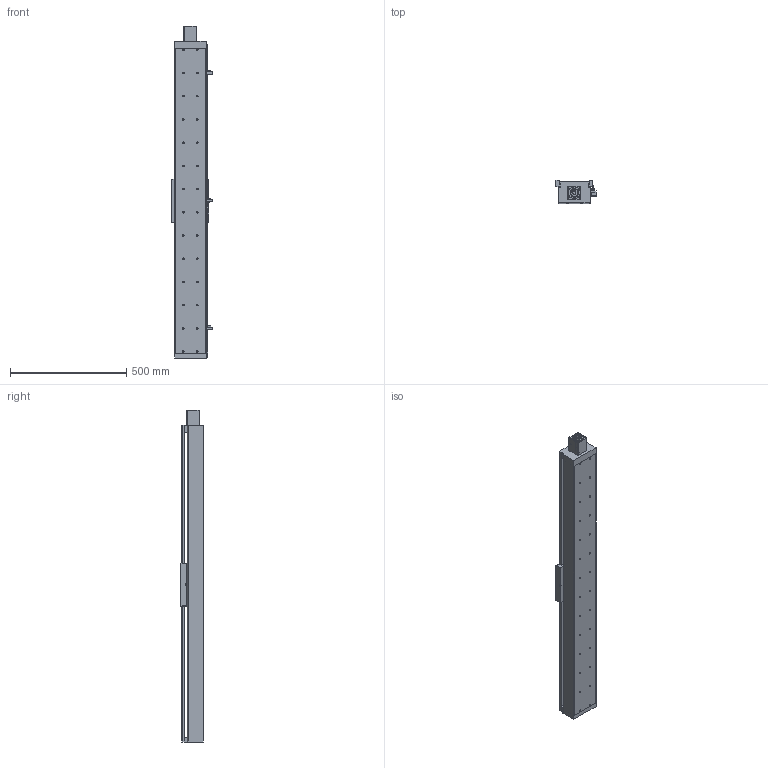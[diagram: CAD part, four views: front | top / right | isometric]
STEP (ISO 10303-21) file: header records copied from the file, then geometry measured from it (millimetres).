
FILE_DESCRIPTION((''),'2;1');
FILE_NAME('E:\libraries\UIA actuator library 2009\standard actuator\UIA136 ball screw 25\UIA136R15NDC-_ _ _-R25_ _, stp file 27Apr16\UIA136R15NDC-1100-R25_ _-M60-P13-C10-S.stp','2016-04-28T17:20:46',('h029'),(''),'Autodesk Inventor 11','Autodesk Inventor 11','');
FILE_SCHEMA(('AUTOMOTIVE_DESIGN { 1 0 10303 214 1 1 1 1 }'));
Length unit declared in the file: millimetre
Products named in the file (10): UIA136R15NDC-1100; UIA136R15NDC-body; motor mount F60; SOH-32C; SOH-32C-3; SOH-32C-1; SOH-32C-2; Carriage; Sensor Switch; sensor rail
Assembly tree (9 placements, depth 3):
  UIA136R15NDC-1100
    UIA136R15NDC-body
    motor mount F60
    SOH-32C
      SOH-32C-3
      SOH-32C-1
      SOH-32C-2
    Carriage
    Sensor Switch
    sensor rail
Bounding box: 174.5 x 98 x 1430 mm (x, y, z)
Volume: 5220911.8 mm3; surface area: 1471726.9 mm2
Topology: 8 solids, 8 shells, 544 faces, 1415 edges, 926 vertices
Faces by surface type: plane 324, bspline 170, cylinder 46, cone 4
Full cylindrical faces by diameter (mm): 2.459 x2, 3.242 x2, 4.5 x2, 7 x4, 7.5 x2, 14 x3, 17 x1, 32 x3, 37 x1, 50.3 x1, 50.5 x1
Entity records: 17780 total; most frequent: CARTESIAN_POINT 5300, ORIENTED_EDGE 2392, DIRECTION 2346, EDGE_CURVE 1196, VERTEX_POINT 862, EDGE_LOOP 848, VECTOR 816, LINE 816
